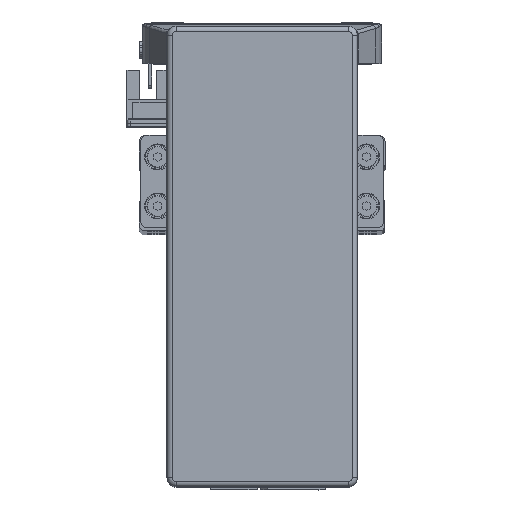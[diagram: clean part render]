
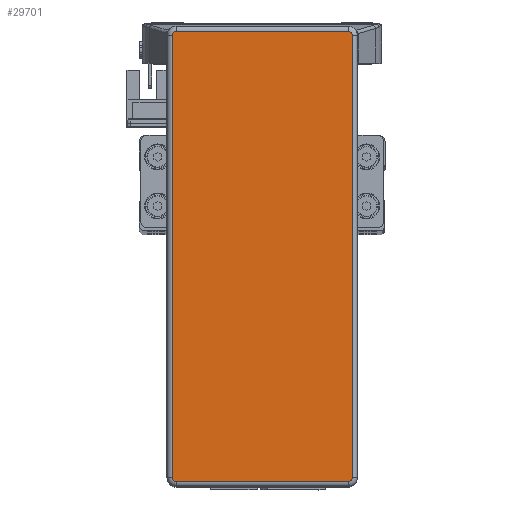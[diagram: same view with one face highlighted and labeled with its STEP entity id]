
A CAD part, top view. The second image highlights one B-rep face of the part: STEP entity #29701.
In plain terms, the highlighted planar face has unit normal (0, 0, 1) as drawn and (0, 0, -1) by its records, which use the part's own axes.
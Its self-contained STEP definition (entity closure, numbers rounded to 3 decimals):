
#2025 = EDGE_CURVE ( 'NONE', #31890, #32018, #8685, .T. ) ;
#2026 = EDGE_CURVE ( 'NONE', #32018, #31883, #8713, .T. ) ;
#8685 = LINE ( 'NONE', #11890, #8701 ) ;
#8701 = VECTOR ( 'NONE', #11928, 1000. ) ;
#8713 = CIRCLE ( 'NONE', #21114, 1.3 ) ;
#11890 = CARTESIAN_POINT ( 'NONE',  ( 71.995, 29.295, -32.2 ) ) ;
#11898 = DIRECTION ( 'NONE',  ( 1., 0., 0. ) ) ;
#11906 = DIRECTION ( 'NONE',  ( 0., 0., -1. ) ) ;
#11928 = DIRECTION ( 'NONE',  ( 1., 0., 0. ) ) ;
#11931 = CARTESIAN_POINT ( 'NONE',  ( 71.995, 27.995, -32.2 ) ) ;
#19699 = CIRCLE ( 'NONE', #21973, 1.3 ) ;
#19700 = VECTOR ( 'NONE', #38901, 1000. ) ;
#19737 = VECTOR ( 'NONE', #38895, 1000. ) ;
#19747 = LINE ( 'NONE', #38892, #19737 ) ;
#19751 = CIRCLE ( 'NONE', #22016, 1.3 ) ;
#19757 = LINE ( 'NONE', #38899, #19700 ) ;
#19768 = LINE ( 'NONE', #39163, #19785 ) ;
#19773 = CIRCLE ( 'NONE', #22028, 1.3 ) ;
#19785 = VECTOR ( 'NONE', #39114, 1000. ) ;
#20947 = EDGE_CURVE ( 'NONE', #31880, #31914, #19757, .T. ) ;
#20949 = EDGE_CURVE ( 'NONE', #31829, #31825, #19747, .T. ) ;
#20952 = EDGE_CURVE ( 'NONE', #31825, #31890, #19699, .T. ) ;
#20969 = EDGE_CURVE ( 'NONE', #31914, #31829, #19751, .T. ) ;
#20973 = EDGE_CURVE ( 'NONE', #31883, #31889, #19768, .T. ) ;
#20997 = EDGE_CURVE ( 'NONE', #31889, #31880, #19773, .T. ) ;
#21114 = AXIS2_PLACEMENT_3D ( 'NONE', #11931, #11906, #11898 ) ;
#21973 = AXIS2_PLACEMENT_3D ( 'NONE', #38806, #38818, #38809 ) ;
#22016 = AXIS2_PLACEMENT_3D ( 'NONE', #38946, #39063, #38967 ) ;
#22028 = AXIS2_PLACEMENT_3D ( 'NONE', #39278, #39295, #39333 ) ;
#26213 = ORIENTED_EDGE ( 'NONE', *, *, #20969, .T. ) ;
#26216 = ORIENTED_EDGE ( 'NONE', *, *, #2025, .T. ) ;
#26228 = ORIENTED_EDGE ( 'NONE', *, *, #20997, .T. ) ;
#26234 = ORIENTED_EDGE ( 'NONE', *, *, #2026, .T. ) ;
#26235 = ORIENTED_EDGE ( 'NONE', *, *, #20947, .T. ) ;
#26244 = ORIENTED_EDGE ( 'NONE', *, *, #20952, .T. ) ;
#26272 = ORIENTED_EDGE ( 'NONE', *, *, #20973, .T. ) ;
#26336 = ORIENTED_EDGE ( 'NONE', *, *, #20949, .T. ) ;
#26745 = FACE_OUTER_BOUND ( 'NONE', #32516, .T. ) ;
#29701 = ADVANCED_FACE ( 'NONE', ( #26745 ), #35569, .F. ) ;
#31825 = VERTEX_POINT ( 'NONE', #46359 ) ;
#31829 = VERTEX_POINT ( 'NONE', #46430 ) ;
#31880 = VERTEX_POINT ( 'NONE', #46396 ) ;
#31883 = VERTEX_POINT ( 'NONE', #46397 ) ;
#31889 = VERTEX_POINT ( 'NONE', #46421 ) ;
#31890 = VERTEX_POINT ( 'NONE', #46457 ) ;
#31914 = VERTEX_POINT ( 'NONE', #46505 ) ;
#32018 = VERTEX_POINT ( 'NONE', #46614 ) ;
#32516 = EDGE_LOOP ( 'NONE', ( #26272, #26228, #26235, #26213, #26336, #26244, #26216, #26234 ) ) ;
#34079 = AXIS2_PLACEMENT_3D ( 'NONE', #35612, #35585, #35579 ) ;
#35569 = PLANE ( 'NONE',  #34079 ) ;
#35579 = DIRECTION ( 'NONE',  ( 1., 0., 0. ) ) ;
#35585 = DIRECTION ( 'NONE',  ( 0., 0., 1. ) ) ;
#35612 = CARTESIAN_POINT ( 'NONE',  ( 71.995, -27.995, -32.2 ) ) ;
#38806 = CARTESIAN_POINT ( 'NONE',  ( -71.995, 27.995, -32.2 ) ) ;
#38809 = DIRECTION ( 'NONE',  ( 1., 0., 0. ) ) ;
#38818 = DIRECTION ( 'NONE',  ( 0., 0., -1. ) ) ;
#38892 = CARTESIAN_POINT ( 'NONE',  ( -73.295, -27.995, -32.2 ) ) ;
#38895 = DIRECTION ( 'NONE',  ( 0., 1., 0. ) ) ;
#38899 = CARTESIAN_POINT ( 'NONE',  ( 71.995, -29.295, -32.2 ) ) ;
#38901 = DIRECTION ( 'NONE',  ( -1., 0., 0. ) ) ;
#38946 = CARTESIAN_POINT ( 'NONE',  ( -71.995, -27.995, -32.2 ) ) ;
#38967 = DIRECTION ( 'NONE',  ( 1., 0., 0. ) ) ;
#39063 = DIRECTION ( 'NONE',  ( 0., 0., -1. ) ) ;
#39114 = DIRECTION ( 'NONE',  ( 0., -1., 0. ) ) ;
#39163 = CARTESIAN_POINT ( 'NONE',  ( 73.295, -27.995, -32.2 ) ) ;
#39278 = CARTESIAN_POINT ( 'NONE',  ( 71.995, -27.995, -32.2 ) ) ;
#39295 = DIRECTION ( 'NONE',  ( 0., 0., -1. ) ) ;
#39333 = DIRECTION ( 'NONE',  ( 1., 0., 0. ) ) ;
#46359 = CARTESIAN_POINT ( 'NONE',  ( -73.295, 27.995, -32.2 ) ) ;
#46396 = CARTESIAN_POINT ( 'NONE',  ( 71.995, -29.295, -32.2 ) ) ;
#46397 = CARTESIAN_POINT ( 'NONE',  ( 73.295, 27.995, -32.2 ) ) ;
#46421 = CARTESIAN_POINT ( 'NONE',  ( 73.295, -27.995, -32.2 ) ) ;
#46430 = CARTESIAN_POINT ( 'NONE',  ( -73.295, -27.995, -32.2 ) ) ;
#46457 = CARTESIAN_POINT ( 'NONE',  ( -71.995, 29.295, -32.2 ) ) ;
#46505 = CARTESIAN_POINT ( 'NONE',  ( -71.995, -29.295, -32.2 ) ) ;
#46614 = CARTESIAN_POINT ( 'NONE',  ( 71.995, 29.295, -32.2 ) ) ;
